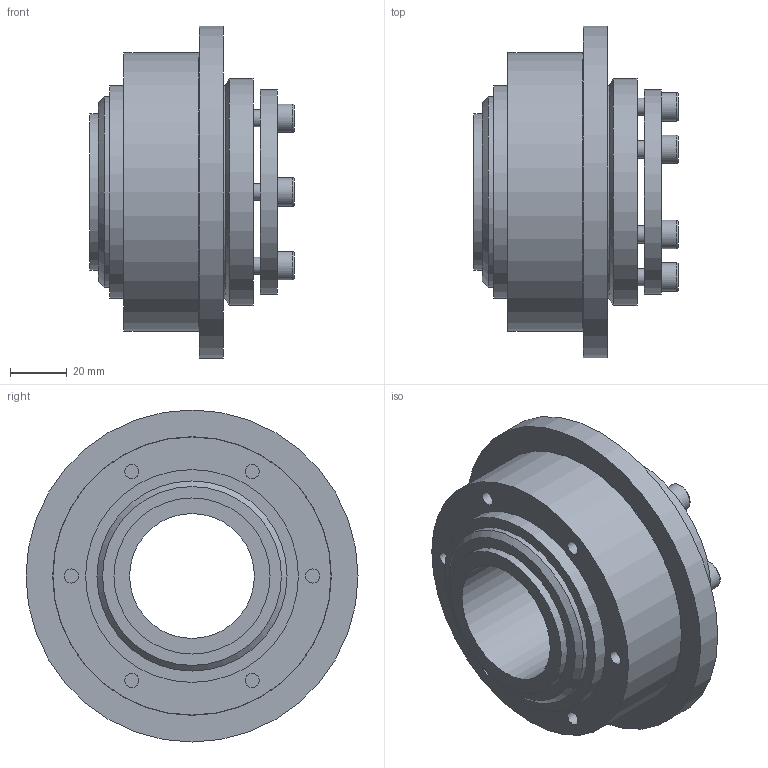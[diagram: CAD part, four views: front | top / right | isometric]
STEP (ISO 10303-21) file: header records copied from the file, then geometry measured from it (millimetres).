
FILE_DESCRIPTION(/* description */ ('STEP AP214'),/* implementation_level */ '2;1');
FILE_NAME(/* name */ 'C:\Diequa Files\DieQua Coupling\TH\STP\TH.200.66.F.#.stp',/* time_stamp */ '2019-02-13T16:13:34-06:00',/* author */ ('DiequaCAD'),/* organization */ (''),/* preprocessor_version */ 'ST-DEVELOPER v17.2',/* originating_system */ 'Autodesk Inventor 2019',/* authorisation */ ' ');
FILE_SCHEMA (('AUTOMOTIVE_DESIGN { 1 0 10303 214 3 1 1 }'));
Length unit declared in the file: millimetre
Products named in the file (1): TH.200.66.F.#
Bounding box: 72 x 117 x 117 mm (x, y, z)
Volume: 315352.8 mm3; surface area: 53323.3 mm2
Topology: 1 solids, 1 shells, 100 faces, 217 edges, 144 vertices
Faces by surface type: plane 63, cylinder 28, torus 7, cone 2
Full cylindrical faces by diameter (mm): 5 x6, 6 x6, 10 x6, 44 x2, 55 x1, 67 x1, 72 x1, 75 x2, 80 x1, 98 x1, 117 x1
Entity records: 2822 total; most frequent: DIRECTION 498, CARTESIAN_POINT 462, ORIENTED_EDGE 434, EDGE_CURVE 217, AXIS2_PLACEMENT_3D 180, VERTEX_POINT 144, EDGE_LOOP 139, LINE 138
